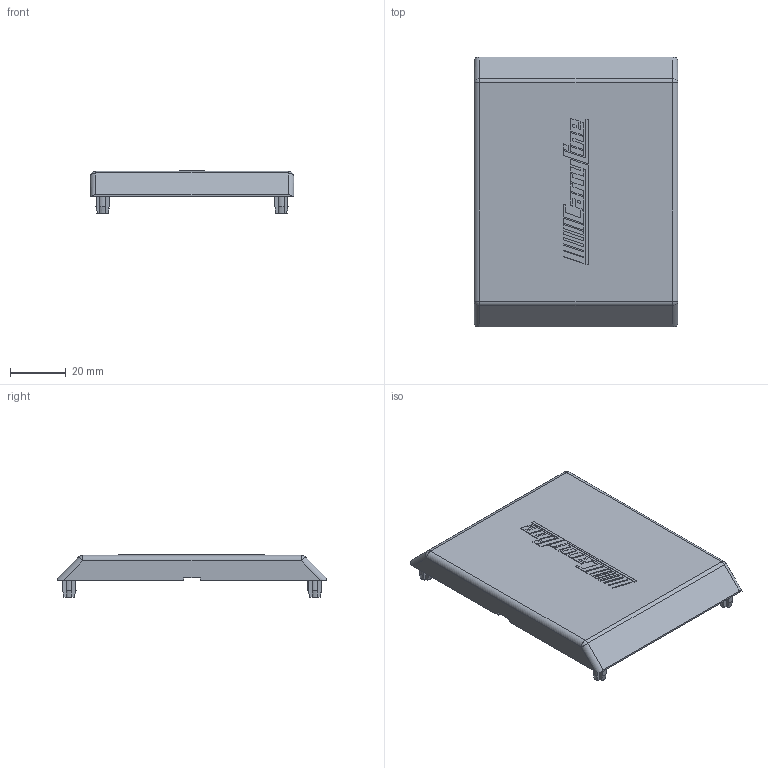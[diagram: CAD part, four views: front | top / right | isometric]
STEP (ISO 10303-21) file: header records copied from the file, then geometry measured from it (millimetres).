
FILE_DESCRIPTION(/* description */ ('COVER CAP FOR 100-4040'),/* implementation_level */ '2;1');
FILE_NAME(/* name */ 'X:\Carryline\Katalog\STEP-Carryline Standarddelar\Serie 100\100-4140.stp',/* time_stamp */ '2014-07-08T12:53:36+02:00',/* author */ ('mathias'),/* organization */ ('CARRYLINE'),/* preprocessor_version */ 'ST-DEVELOPER v15.2',/* originating_system */ 'Autodesk Inventor 2014',/* authorisation */ '');
FILE_SCHEMA (('AUTOMOTIVE_DESIGN { 1 0 10303 214 3 1 1 }'));
Length unit declared in the file: millimetre
Products named in the file (1): 100-4140
Bounding box: 73 x 96.5 x 15.2 mm (x, y, z)
Volume: 25961.2 mm3; surface area: 19132.8 mm2
Topology: 1 solids, 1 shells, 249 faces, 664 edges, 436 vertices
Faces by surface type: plane 189, cylinder 36, cone 16, bspline 4, sphere 4
Entity records: 7759 total; most frequent: CARTESIAN_POINT 1542, ORIENTED_EDGE 1328, DIRECTION 1224, EDGE_CURVE 664, LINE 524, VECTOR 524, VERTEX_POINT 436, AXIS2_PLACEMENT_3D 350
